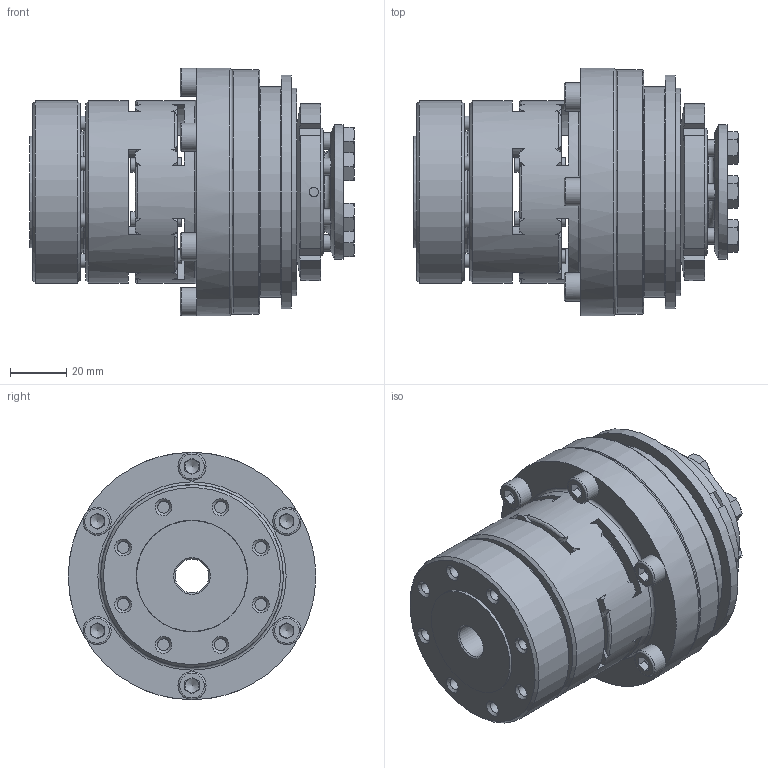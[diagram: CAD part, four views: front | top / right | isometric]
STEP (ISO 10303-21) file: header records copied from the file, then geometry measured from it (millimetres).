
FILE_DESCRIPTION( ( 'Unknown' ), '1' );
FILE_NAME( 'F:/JAKOB-STEP+IGES-Dateien/STEP-Dateien/SKY-ES/SKY-ES 100.stp', 'Unknown', ( 'Unknown' ), ( 'Unknown' ), 'PSStep 10.1', 'Unknown', ' ' );
FILE_SCHEMA( ( 'AUTOMOTIVE_DESIGN { 1 0 10303 214 1 1 1 1 }' ) );
Length unit declared in the file: millimetre
Products named in the file (1): KT101732
Bounding box: 115.5 x 88 x 88 mm (x, y, z)
Volume: 350869.7 mm3; surface area: 107852.4 mm2
Topology: 1 solids, 17 shells, 827 faces, 2175 edges, 1392 vertices
Faces by surface type: plane 389, cylinder 197, cone 144, torus 82, sphere 15
Full cylindrical faces by diameter (mm): 2 x2, 3.3 x3, 4.2 x12, 5 x31, 5.4 x8, 6 x12, 6.4 x12, 8.5 x8, 8.7 x6, 9 x8, 10 x6, 12 x2, 14.5 x1, 25.5 x1, 28.5 x1, 30 x2, 40 x1, 40.5 x1, 42.5 x1, 43.1 x1, 44.8 x1, 45 x2, 46 x1, 46.1 x1, 46.5 x1, 48 x1, 49 x1, 52.3 x2, 56 x1, 60.8 x2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
Entity records: 31538 total; most frequent: CARTESIAN_POINT 6534, DIRECTION 3854, ORIENTED_EDGE 3450, EDGE_CURVE 1725, AXIS2_PLACEMENT_3D 1644, EDGE_LOOP 1227, VERTEX_POINT 1220, FACE_OUTER_BOUND 992
